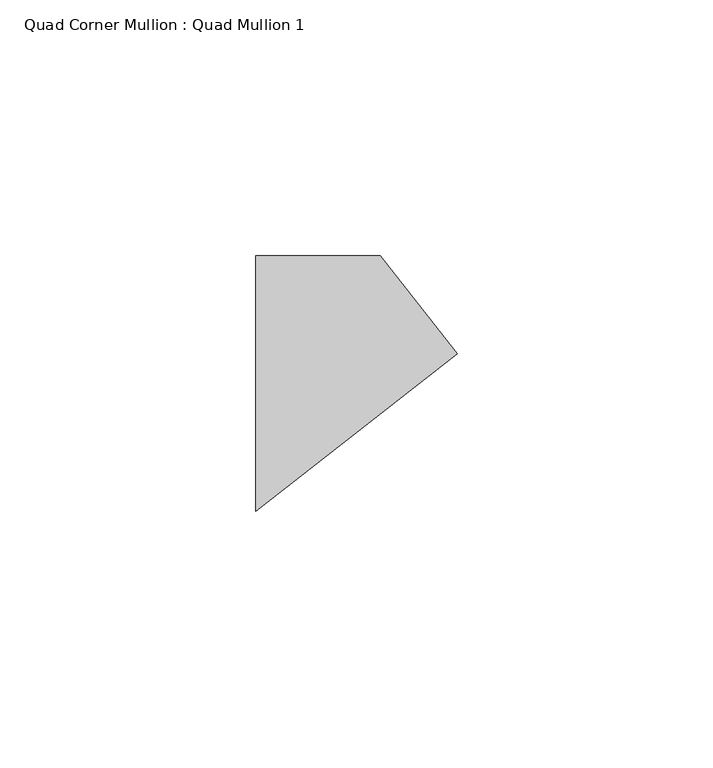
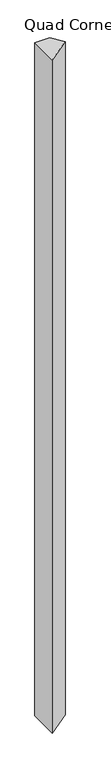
"""IFC4 building model written with IfcOpenShell, lengths in millimetres: member geometry, Quad Corner Mullion : Quad Mullion 1."""

from ifc_helpers import new_model, si_unit, frame, origin, place, context, project, spatial, polyline, outline, extrude, source, transform, mapped, element, save


def quad_corner_mullion_quad_mullion_1_1ef14de5(model_context):
    return source(origin(), model_context, "Body", "SweptSolid", [
        extrude(outline(polyline([(27.207223, 5.7830738), (-12.1933147, -25.0), (-12.1933147, 25.0), (12.1933147, 25.0), (27.207223, 5.7830738)])), frame((0.0, 0.0, -1180.0), z_axis=(0.0, 0.0, 1.0), x_axis=(1.0, 0.0, 0.0)), (0.0, 0.0, 1.0), 1180.0),
    ])


if __name__ == "__main__":
    model = new_model("IFC4")
    model_context = context("Model", 3, world=origin())
    ifc_project = project(units=[si_unit("LENGTHUNIT", "METRE", prefix="MILLI")], contexts=[model_context])
    site = spatial("IfcSite", under=ifc_project)
    building = spatial("IfcBuilding", under=site)
    placement = place(None, origin())
    quad_corner_mullion_quad_mullion_1_shape = quad_corner_mullion_quad_mullion_1_1ef14de5(model_context)
    element("IfcMember", 1, ObjectType="Quad Corner Mullion : Quad Mullion 1", at=placement, inside=building, context=model_context, shape_type="MappedRepresentation", body=[
        mapped(quad_corner_mullion_quad_mullion_1_shape, transform((0.0, 0.0, 0.0), x_axis=(1.0, 0.0, 0.0), y_axis=(0.0, 1.0, 0.0), z_axis=(0.0, 0.0, 1.0))),
    ])
    save(model, "model.ifc")
